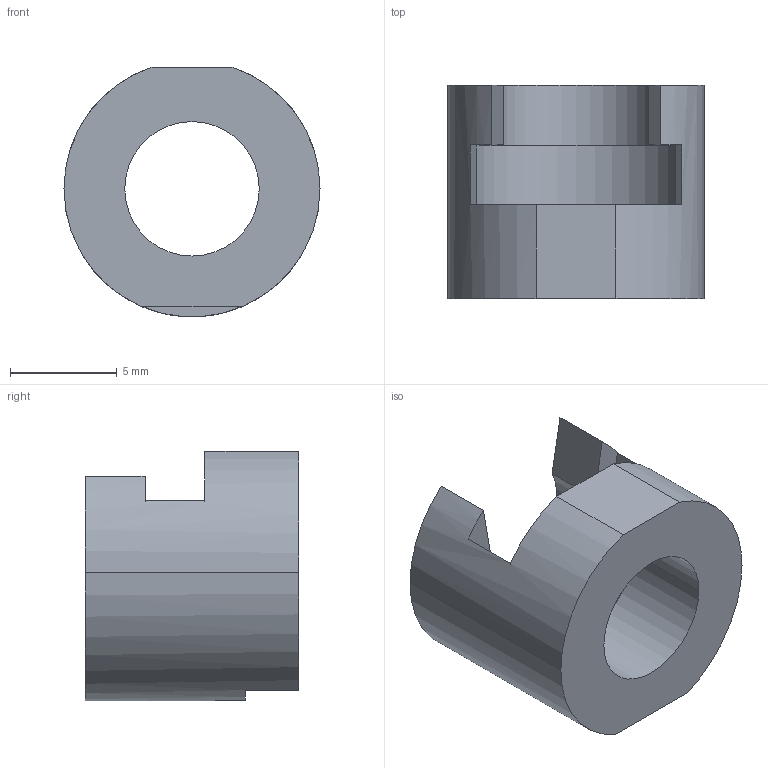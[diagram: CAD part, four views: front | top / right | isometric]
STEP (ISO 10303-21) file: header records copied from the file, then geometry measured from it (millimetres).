
FILE_DESCRIPTION (( 'STEP AP214' ), '1' );
FILE_NAME ('_Frunthalter_K760004100_Anschrauben.step', '2010-09-07T12:37:12', ( 'grass' ), ( '' ), 'SwSTEP 2.0', 'SolidWorks 2010', '' );
FILE_SCHEMA (( 'AUTOMOTIVE_DESIGN' ));
Length unit declared in the file: millimetre
Products named in the file (1): _Frunthalter_K760004100_Anschrauben
Bounding box: 12 x 10 x 11.7 mm (x, y, z)
Volume: 556.6 mm3; surface area: 745.5 mm2
Topology: 1 solids, 1 shells, 22 faces, 60 edges, 40 vertices
Faces by surface type: cylinder 11, plane 11
Entity records: 750 total; most frequent: DIRECTION 134, CARTESIAN_POINT 123, ORIENTED_EDGE 120, EDGE_CURVE 60, AXIS2_PLACEMENT_3D 51, VERTEX_POINT 40, LINE 32, VECTOR 32
